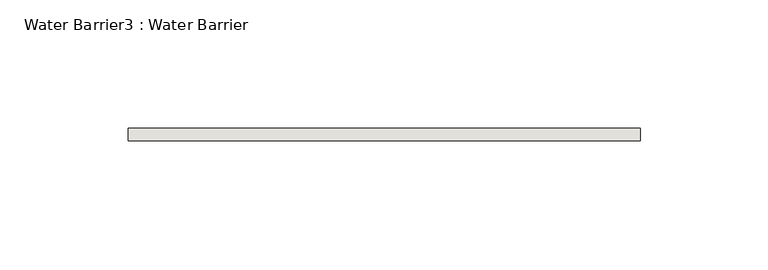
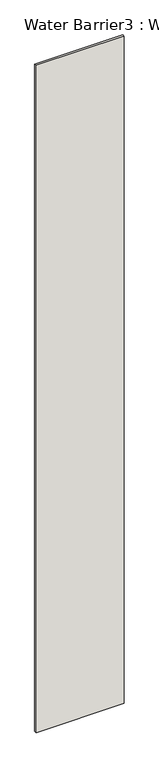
"""IFC4 building model written with IfcOpenShell, lengths in millimetres: wall geometry, Water Barrier3 : Water Barrier."""

from ifc_helpers import new_model, si_unit, origin, origin_with_axes, place, context, project, spatial, polyline, outline, extrude, source, transform, mapped, element, save


def water_barrier3_water_barrier_aaa5e24d(model_context):
    return source(origin(), model_context, "Body", "SweptSolid", [
        extrude(outline(polyline([(20809.7747715, 14967.3863455), (20609.7747715, 14967.3863455), (20609.7747715, 14972.3863455), (20809.7747715, 14972.3863455), (20809.7747715, 14967.3863455)])), origin_with_axes(), (0.0, 0.0, 1.0), 1600.0),
    ])


if __name__ == "__main__":
    model = new_model("IFC4")
    model_context = context("Model", 3, world=origin())
    ifc_project = project(units=[si_unit("LENGTHUNIT", "METRE", prefix="MILLI")], contexts=[model_context])
    site = spatial("IfcSite", under=ifc_project)
    building = spatial("IfcBuilding", under=site)
    placement = place(None, origin())
    water_barrier3_water_barrier_shape = water_barrier3_water_barrier_aaa5e24d(model_context)
    element("IfcWall", 1, ObjectType="Water Barrier3 : Water Barrier", at=placement, inside=building, context=model_context, shape_type="MappedRepresentation", body=[
        mapped(water_barrier3_water_barrier_shape, transform((0.0, 0.0, 0.0), x_axis=(1.0, 0.0, 0.0), y_axis=(0.0, 1.0, 0.0), z_axis=(0.0, 0.0, 1.0))),
    ])
    save(model, "model.ifc")
